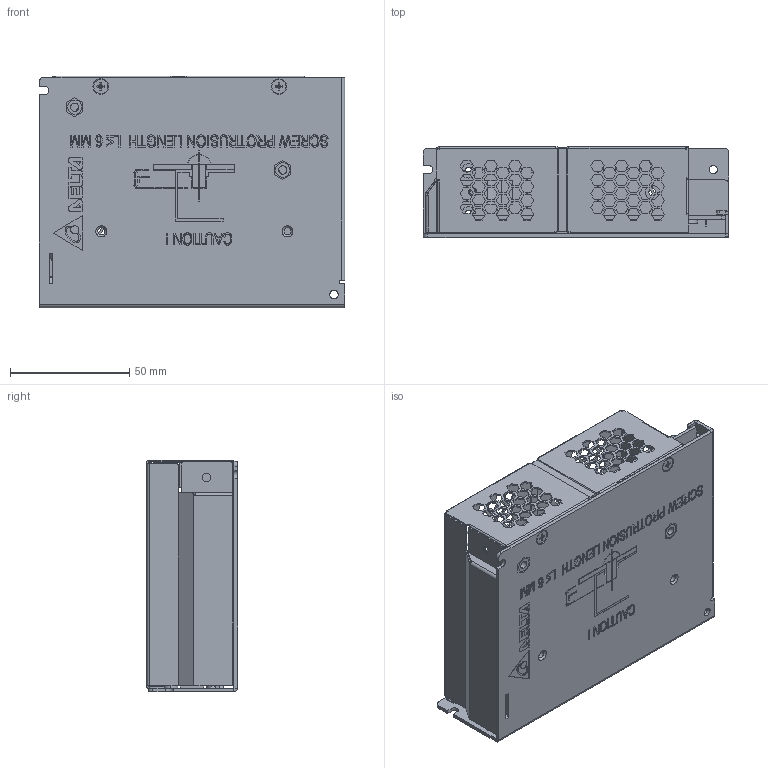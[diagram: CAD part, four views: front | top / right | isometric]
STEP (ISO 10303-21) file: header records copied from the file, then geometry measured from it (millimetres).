
FILE_DESCRIPTION((''),'2;1');
FILE_NAME('PMC-24V050W1AA_ASM','2012-04-18T',('Manop.Pr'),(''),'PRO/ENGINEER BY PARAMETRIC TECHNOLOGY CORPORATION, 2010180','PRO/ENGINEER BY PARAMETRIC TECHNOLOGY CORPORATION, 2010180','');
FILE_SCHEMA(('CONFIG_CONTROL_DESIGN','SHAPE_APPEARANCE_LAYERS_GROUPS'));
Products named in the file (17): 331609380101; 331609380101_A_STUD_L7; 331609380101_ASM; 331602180101; 326203870304; 3268095800; 2958033805_PWB; 307049747W_A_BODY; 307049747W_A_SCREW; 307049747W_ASM; EE_VR; EE_LED; ASSY_PWB_ASM; 3100001200; 3421226700; 3100000400; PMC-24V050W1AA_ASM
Assembly tree (24 placements, depth 4):
  PMC-24V050W1AA_ASM
    331609380101_ASM
      331609380101
      331609380101_A_STUD_L7  x2
    331602180101
    326203870304
    3268095800
    ASSY_PWB_ASM
      2958033805_PWB
      307049747W_ASM
        307049747W_A_BODY
        307049747W_A_SCREW  x5
      EE_VR
      EE_LED
    3100001200
    3421226700
    3100000400  x4
Bounding box: 128 x 38.15 x 97.05 mm (x, y, z)
Volume: 62144 mm3; surface area: 108277 mm2
Topology: 21 solids, 21 shells, 4918 faces, 13327 edges, 8322 vertices
Faces by surface type: plane 3613, cylinder 471, extrusion 408, bspline 282, cone 124, torus 20
Entity records: 178144 total; most frequent: CARTESIAN_POINT 32235, ORIENTED_EDGE 23758, DIRECTION 19818, EDGE_CURVE 11879, PRESENTATION_STYLE_ASSIGNMENT 11823, STYLED_ITEM 11653, CURVE_STYLE 11639, VECTOR 10490
